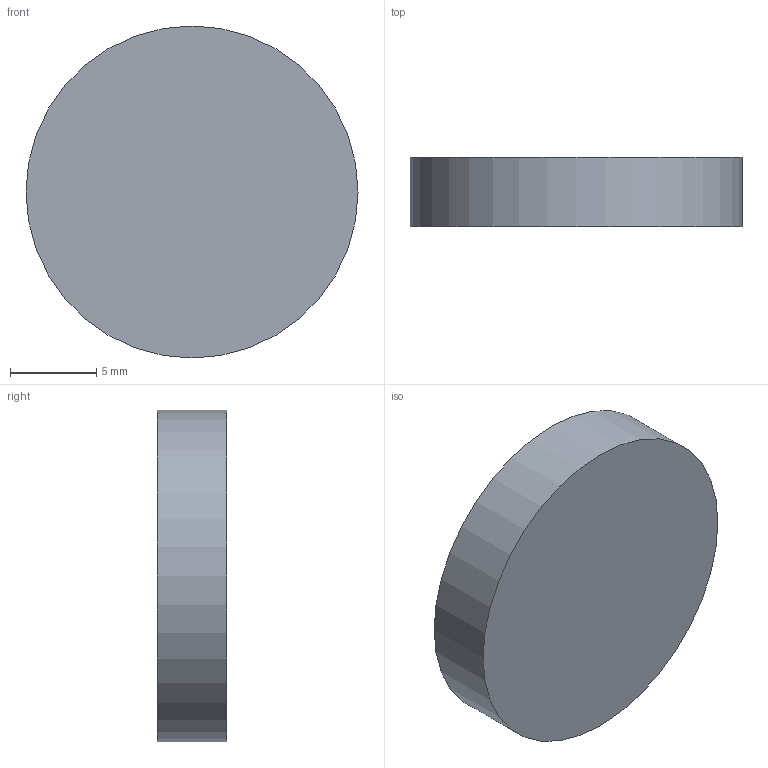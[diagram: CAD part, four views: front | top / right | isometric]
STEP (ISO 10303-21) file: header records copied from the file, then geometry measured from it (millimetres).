
FILE_DESCRIPTION(('Open CASCADE Model'),'2;1');
FILE_NAME('Open CASCADE Shape Model','2026-10-13T11:47:37',('Author'),( 'Open CASCADE'),'Open CASCADE STEP processor 7.8','Open CASCADE 7.8' ,'Unknown');
FILE_SCHEMA(('AUTOMOTIVE_DESIGN { 1 0 10303 214 1 1 1 1 }'));
Length unit declared in the file: millimetre
Products named in the file (1): Open CASCADE STEP translator 7.8 59
Bounding box: 19.2 x 4 x 19.2 mm (x, y, z)
Volume: 1158.1 mm3; surface area: 820.3 mm2
Topology: 1 solids, 1 shells, 3 faces, 3 edges, 2 vertices
Faces by surface type: plane 2, cylinder 1
Full cylindrical faces by diameter (mm): 19.2 x1
Entity records: 108 total; most frequent: DIRECTION 19, CARTESIAN_POINT 15, AXIS2_PLACEMENT_3D 6, ORIENTED_EDGE 6, PCURVE 6, DEFINITIONAL_REPRESENTATION 6, LINE 5, VECTOR 5
